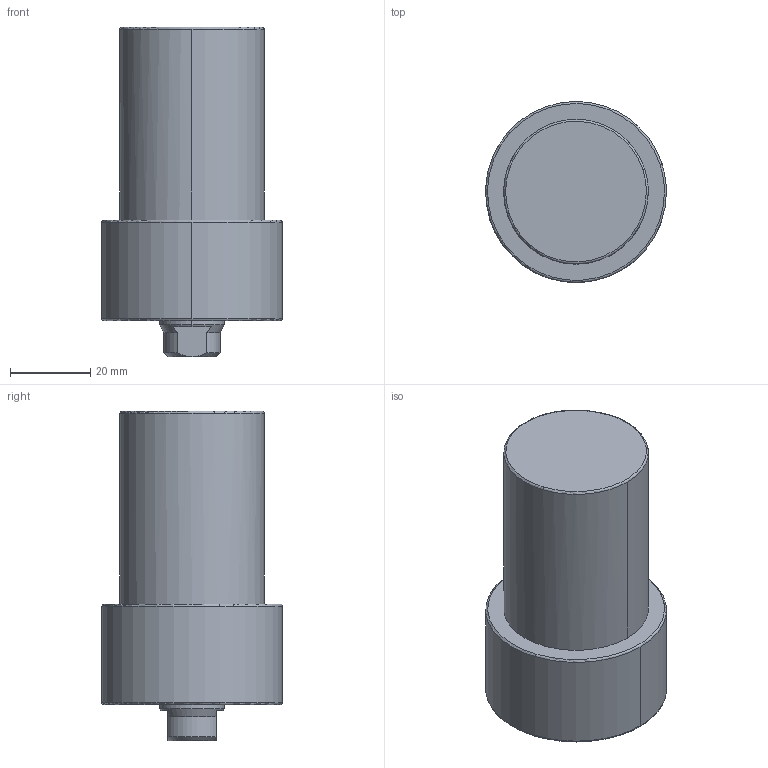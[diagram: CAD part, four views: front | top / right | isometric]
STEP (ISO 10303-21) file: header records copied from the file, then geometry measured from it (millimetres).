
FILE_DESCRIPTION((' '),'2;1');
FILE_NAME( 'TLLU-036GA-040.STEP.stp', '2025-10-24T16:37:04', (' '), ('--- Datakit www.datakit.com---'), ' Datakit CrossCadWare V2024.1 Dec 21 2023', 'Mastercam 2025', ' ');
FILE_SCHEMA(('AUTOMOTIVE_DESIGN { 1 0 10303 214 1 1 1 1 }'));
Length unit declared in the file: millimetre
Products named in the file (1): TLLU-036GA-040
Bounding box: 44.99 x 45 x 82 mm (x, y, z)
Volume: 89024.8 mm3; surface area: 13260.5 mm2
Topology: 1 solids, 1 shells, 62 faces, 172 edges, 111 vertices
Faces by surface type: cone 24, cylinder 22, plane 10, torus 6
Entity records: 2034 total; most frequent: DIRECTION 386, CARTESIAN_POINT 380, ORIENTED_EDGE 324, AXIS2_PLACEMENT_3D 169, EDGE_CURVE 162, VERTEX_POINT 111, CIRCLE 106, EDGE_LOOP 71
